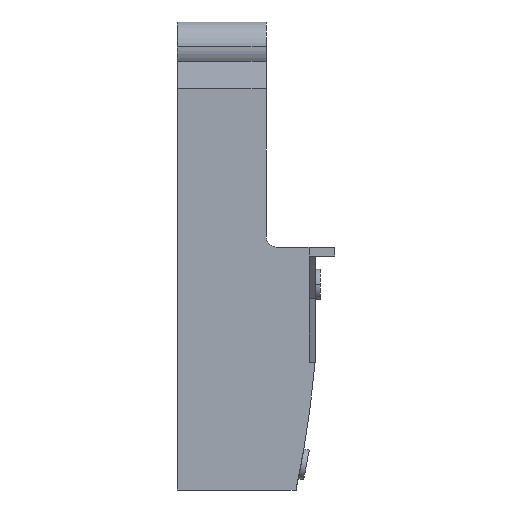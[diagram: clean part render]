
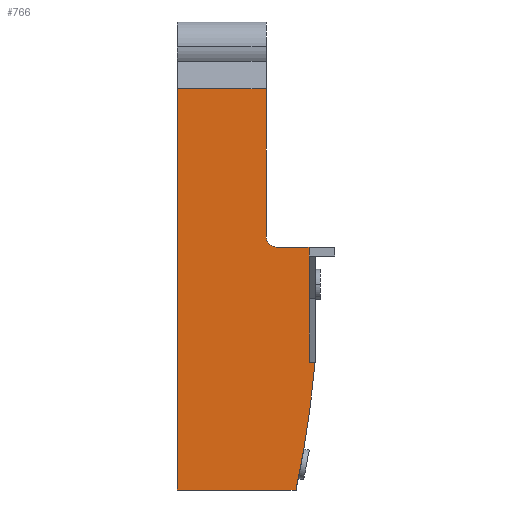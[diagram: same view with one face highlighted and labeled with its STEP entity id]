
A CAD part, front view. The second image highlights one B-rep face of the part: STEP entity #766.
In plain terms, the highlighted planar face has unit normal (0, -1, 0).
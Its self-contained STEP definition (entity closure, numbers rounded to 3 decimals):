
#5 = DIRECTION ( 'NONE',  ( -1., 0., 0. ) ) ;
#6 = CARTESIAN_POINT ( 'NONE',  ( 38.8, -7.05, 0. ) ) ;
#11 = CARTESIAN_POINT ( 'NONE',  ( 37.1, -7.05, 0. ) ) ;
#15 = CARTESIAN_POINT ( 'NONE',  ( -260.061, -7.05, 62.114 ) ) ;
#133 = EDGE_LOOP ( 'NONE', ( #569, #568, #567, #566, #565, #564, #563, #562, #561 ) ) ;
#199 = LINE ( 'NONE', #297, #200 ) ;
#200 = VECTOR ( 'NONE', #294, 1000. ) ;
#205 = LINE ( 'NONE', #289, #206 ) ;
#206 = VECTOR ( 'NONE', #288, 1000. ) ;
#288 = DIRECTION ( 'NONE',  ( 1., 0., 0. ) ) ;
#289 = CARTESIAN_POINT ( 'NONE',  ( 38.8, -7.05, 36. ) ) ;
#294 = DIRECTION ( 'NONE',  ( 0., 0., -1. ) ) ;
#297 = CARTESIAN_POINT ( 'NONE',  ( 0., -7.05, 0. ) ) ;
#299 = DIRECTION ( 'NONE',  ( 0., 0., 1. ) ) ;
#300 = CARTESIAN_POINT ( 'NONE',  ( 25., -7.05, 0. ) ) ;
#310 = DIRECTION ( 'NONE',  ( -1., 0., 0. ) ) ;
#311 = CARTESIAN_POINT ( 'NONE',  ( 38.8, -7.05, 113.2 ) ) ;
#312 = CARTESIAN_POINT ( 'NONE',  ( 28., -7.05, 71.5 ) ) ;
#314 = DIRECTION ( 'NONE',  ( -1., 0., 0. ) ) ;
#315 = DIRECTION ( 'NONE',  ( 0., 1., 0. ) ) ;
#322 = DIRECTION ( 'NONE',  ( -1., 0., 0. ) ) ;
#323 = CARTESIAN_POINT ( 'NONE',  ( 38.8, -7.05, 68.5 ) ) ;
#328 = DIRECTION ( 'NONE',  ( 0., -1., 0. ) ) ;
#329 = DIRECTION ( 'NONE',  ( -1., 0., 0. ) ) ;
#330 = DIRECTION ( 'NONE',  ( 0., 0., -1. ) ) ;
#353 = CARTESIAN_POINT ( 'NONE',  ( 38.8, -7.05, 36. ) ) ;
#363 = CARTESIAN_POINT ( 'NONE',  ( 33.438, -7.05, 0. ) ) ;
#365 = CARTESIAN_POINT ( 'NONE',  ( 37.1, -7.05, 68.5 ) ) ;
#366 = CARTESIAN_POINT ( 'NONE',  ( 37.1, -7.05, 36. ) ) ;
#369 = CARTESIAN_POINT ( 'NONE',  ( 0., -7.05, 113.2 ) ) ;
#371 = CARTESIAN_POINT ( 'NONE',  ( 25., -7.05, 71.5 ) ) ;
#372 = CARTESIAN_POINT ( 'NONE',  ( 0., -7.05, 0. ) ) ;
#379 = CARTESIAN_POINT ( 'NONE',  ( 25., -7.05, 113.2 ) ) ;
#433 = VERTEX_POINT ( 'NONE', #379 ) ;
#438 = VERTEX_POINT ( 'NONE', #372 ) ;
#439 = VERTEX_POINT ( 'NONE', #371 ) ;
#442 = VERTEX_POINT ( 'NONE', #369 ) ;
#483 = VERTEX_POINT ( 'NONE', #366 ) ;
#488 = VERTEX_POINT ( 'NONE', #365 ) ;
#514 = VERTEX_POINT ( 'NONE', #363 ) ;
#525 = VERTEX_POINT ( 'NONE', #353 ) ;
#545 = VERTEX_POINT ( 'NONE', #900 ) ;
#561 = ORIENTED_EDGE ( 'NONE', *, *, #986, .T. ) ;
#562 = ORIENTED_EDGE ( 'NONE', *, *, #980, .T. ) ;
#563 = ORIENTED_EDGE ( 'NONE', *, *, #985, .T. ) ;
#564 = ORIENTED_EDGE ( 'NONE', *, *, #979, .T. ) ;
#565 = ORIENTED_EDGE ( 'NONE', *, *, #974, .T. ) ;
#566 = ORIENTED_EDGE ( 'NONE', *, *, #973, .F. ) ;
#567 = ORIENTED_EDGE ( 'NONE', *, *, #989, .F. ) ;
#568 = ORIENTED_EDGE ( 'NONE', *, *, #972, .T. ) ;
#569 = ORIENTED_EDGE ( 'NONE', *, *, #969, .F. ) ;
#583 = AXIS2_PLACEMENT_3D ( 'NONE', #312, #315, #314 ) ;
#604 = AXIS2_PLACEMENT_3D ( 'NONE', #839, #828, #827 ) ;
#608 = AXIS2_PLACEMENT_3D ( 'NONE', #15, #328, #329 ) ;
#648 = FACE_OUTER_BOUND ( 'NONE', #133, .T. ) ;
#684 = LINE ( 'NONE', #6, #686 ) ;
#686 = VECTOR ( 'NONE', #5, 1000. ) ;
#690 = VECTOR ( 'NONE', #330, 1000. ) ;
#692 = LINE ( 'NONE', #311, #708 ) ;
#699 = LINE ( 'NONE', #11, #690 ) ;
#700 = CIRCLE ( 'NONE', #608, 300. ) ;
#701 = LINE ( 'NONE', #323, #702 ) ;
#702 = VECTOR ( 'NONE', #322, 1000. ) ;
#708 = VECTOR ( 'NONE', #310, 1000. ) ;
#710 = VECTOR ( 'NONE', #299, 1000. ) ;
#712 = CIRCLE ( 'NONE', #583, 3. ) ;
#713 = LINE ( 'NONE', #300, #710 ) ;
#766 = ADVANCED_FACE ( 'NONE', ( #648 ), #844, .F. ) ;
#827 = DIRECTION ( 'NONE',  ( -1., 0., 0. ) ) ;
#828 = DIRECTION ( 'NONE',  ( 0., 1., 0. ) ) ;
#839 = CARTESIAN_POINT ( 'NONE',  ( 38.8, -7.05, 0. ) ) ;
#844 = PLANE ( 'NONE',  #604 ) ;
#900 = CARTESIAN_POINT ( 'NONE',  ( 28., -7.05, 68.5 ) ) ;
#969 = EDGE_CURVE ( 'NONE', #514, #438, #684, .T. ) ;
#972 = EDGE_CURVE ( 'NONE', #514, #525, #700, .T. ) ;
#973 = EDGE_CURVE ( 'NONE', #488, #483, #699, .T. ) ;
#974 = EDGE_CURVE ( 'NONE', #488, #545, #701, .T. ) ;
#979 = EDGE_CURVE ( 'NONE', #545, #439, #712, .T. ) ;
#980 = EDGE_CURVE ( 'NONE', #433, #442, #692, .T. ) ;
#985 = EDGE_CURVE ( 'NONE', #439, #433, #713, .T. ) ;
#986 = EDGE_CURVE ( 'NONE', #442, #438, #199, .T. ) ;
#989 = EDGE_CURVE ( 'NONE', #483, #525, #205, .T. ) ;
